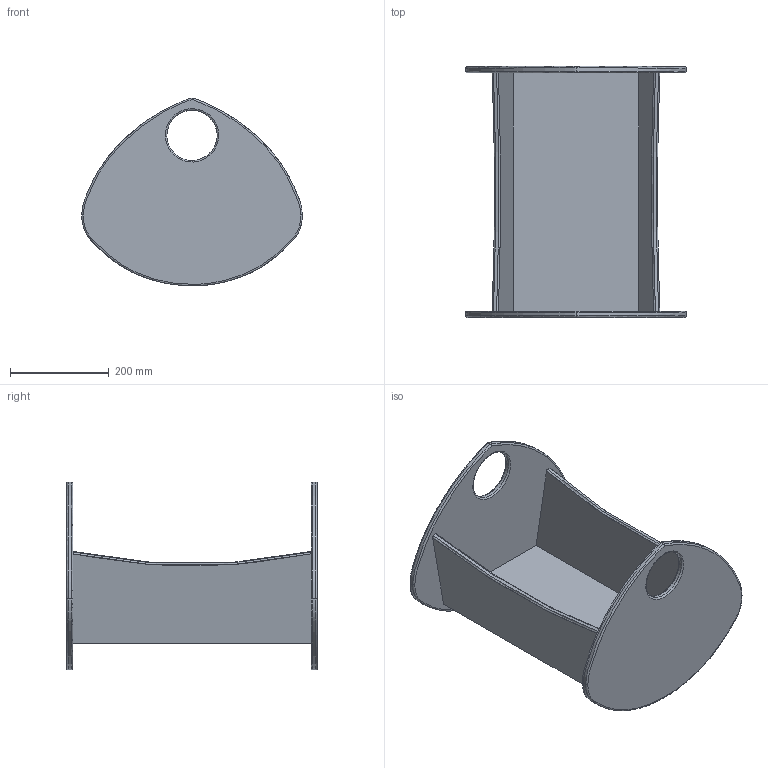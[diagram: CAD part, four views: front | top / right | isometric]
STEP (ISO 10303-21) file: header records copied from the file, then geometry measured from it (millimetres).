
FILE_DESCRIPTION ((), '1');
FILE_NAME ('/Volumes/Data/Drawings/Moi3D/babydoll carriage/babydoll carriage 20210608.stp', '2021-06-08T13:31:47', ('Unknown'), ('Unknown'), 'HarmonyWare STEP v2.1.4', 'HarmonyWare Translators', '');
FILE_SCHEMA (('CONFIG_CONTROL_DESIGN'));
Length unit declared in the file: inch
Products named in the file (6): bottom; side; end-2; end-1
Assembly tree (5 placements, depth 2):
  (unnamed)
    bottom
    side
    end-2
    side
    end-1
Bounding box: 446.22 x 508 x 379.67 mm (x, y, z)
Volume: 5707713.3 mm3; surface area: 1150963.9 mm2
Topology: 5 solids, 5 shells, 114 faces, 267 edges, 173 vertices
Faces by surface type: bspline 114
Entity records: 11681 total; most frequent: CARTESIAN_POINT 9180, ORIENTED_EDGE 540, EDGE_CURVE 270, B_SPLINE_CURVE_WITH_KNOTS 249, VERTEX_POINT 176, EDGE_LOOP 128, FACE_OUTER_BOUND 114, ADVANCED_FACE 114
